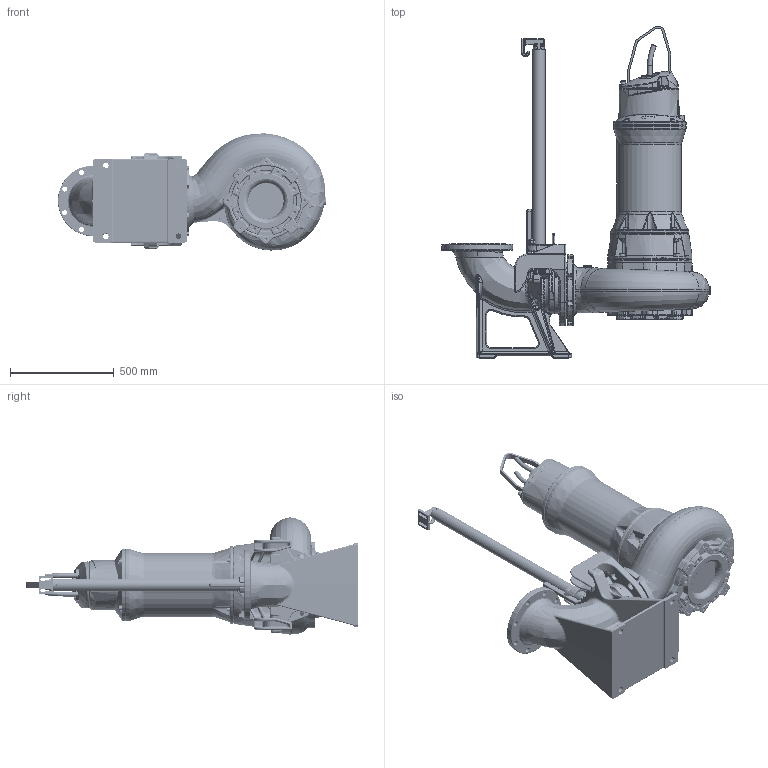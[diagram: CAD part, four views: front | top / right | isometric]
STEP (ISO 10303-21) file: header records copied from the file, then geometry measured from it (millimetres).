
FILE_DESCRIPTION (( 'STEP AP203' ), '1' );
FILE_NAME ('PE3.5 200G CB1 Wet Well.STEP', '2018-08-16T11:13:38', ( '' ), ( '' ), 'SwSTEP 2.0', 'SolidWorks 2017', '' );
FILE_SCHEMA (( 'CONFIG_CONTROL_DESIGN' ));
Products named in the file (2): PE3.5 200G CB1 Wet Well
Bounding box: 1290 x 1595.9 x 563.13 mm (x, y, z)
Volume: 168739993.1 mm3; surface area: 6160932.4 mm2
Topology: 32 solids, 32 shells, 4986 faces, 11781 edges, 6673 vertices
Faces by surface type: bspline 1709, cylinder 1468, plane 965, torus 503, sphere 183, cone 158
Full cylindrical faces by diameter (mm): 2.9 x4, 5 x2, 6 x2, 6.8 x7, 8 x7, 8.4 x2, 9 x7, 10 x6, 10.2 x12, 10.5 x1, 11 x8, 12 x21, 13 x12, 14 x8, 15 x5, 16 x16, 17 x2, 17.5 x8, 18 x22, 20 x15, 22 x2, 23 x8, 24 x14, 26 x6, 28 x4, 35 x8, 36 x8, 38 x2, 40 x3, 52.5 x1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
Entity records: 239052 total; most frequent: CARTESIAN_POINT 141522, ORIENTED_EDGE 21812, DIRECTION 17709, EDGE_CURVE 10906, AXIS2_PLACEMENT_3D 7275, VERTEX_POINT 6520, EDGE_LOOP 5662, FACE_OUTER_BOUND 5312
